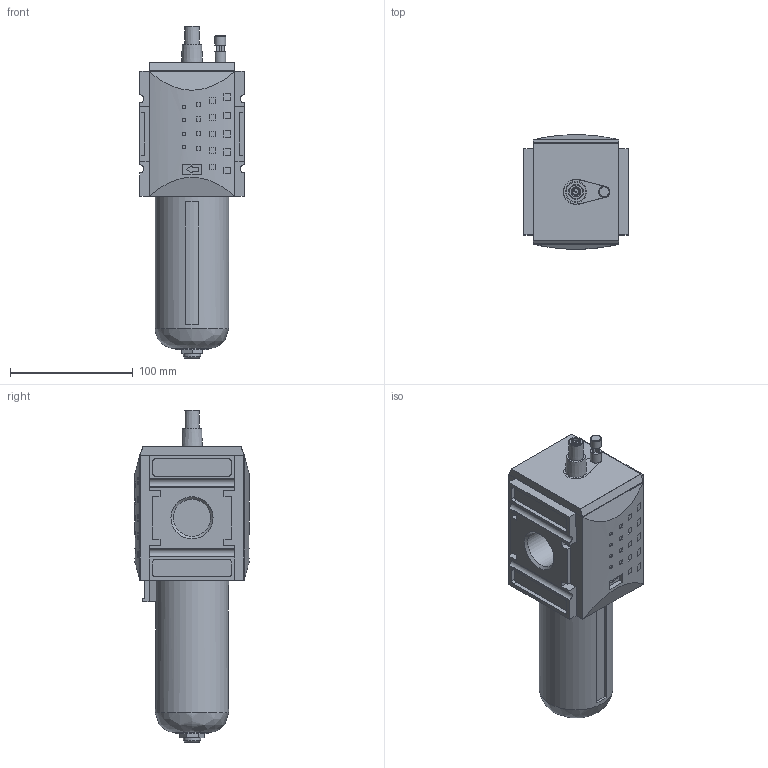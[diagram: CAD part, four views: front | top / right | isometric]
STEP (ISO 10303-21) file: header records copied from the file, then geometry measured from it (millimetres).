
FILE_DESCRIPTION((''),'2;1');
FILE_NAME('K:\ZEICHNG\Kunden Modelle\FUTURA Steps\BG4\KLUB-41.stp','2010-02-10T10:09:19',('DDruske'),(''),'Autodesk Inventor 2009','Autodesk Inventor 2009','');
FILE_SCHEMA(('AUTOMOTIVE_DESIGN { 1 0 10303 214 1 1 1 1 }'));
Length unit declared in the file: millimetre
Products named in the file (1): Bauteil1
Bounding box: 85 x 93.28 x 270.7 mm (x, y, z)
Volume: 1048035.8 mm3; surface area: 98708.7 mm2
Topology: 1 solids, 2 shells, 498 faces, 1256 edges, 810 vertices
Faces by surface type: plane 287, cylinder 132, bspline 54, torus 12, sphere 8, cone 5
Full cylindrical faces by diameter (mm): 8 x1, 8.6 x1, 9 x2, 14 x1, 24.1 x1, 27 x1, 30.291 x1, 60 x1
Entity records: 15507 total; most frequent: CARTESIAN_POINT 2958, DIRECTION 2472, ORIENTED_EDGE 2456, EDGE_CURVE 1228, VECTOR 834, LINE 834, AXIS2_PLACEMENT_3D 819, VERTEX_POINT 808
